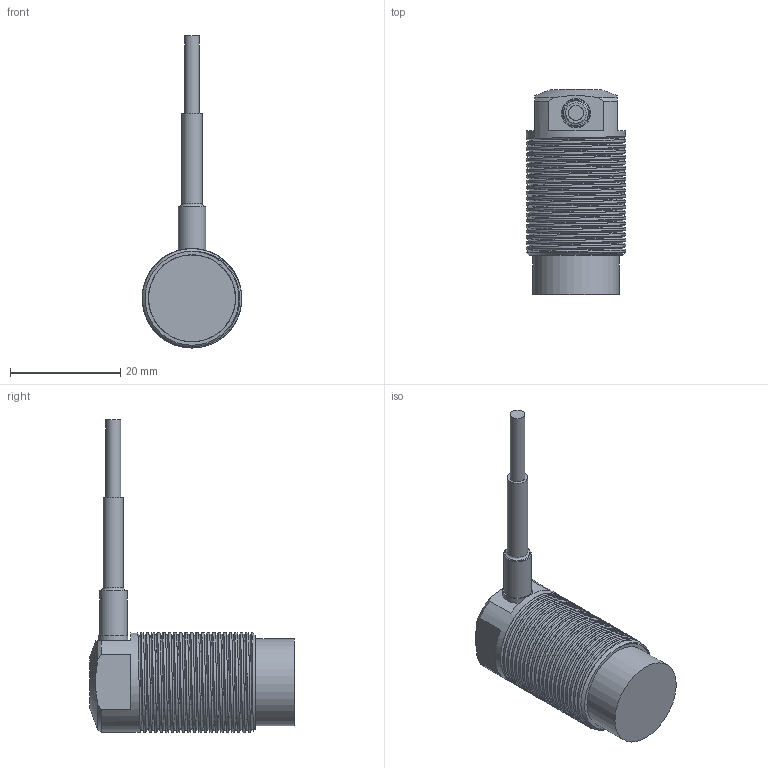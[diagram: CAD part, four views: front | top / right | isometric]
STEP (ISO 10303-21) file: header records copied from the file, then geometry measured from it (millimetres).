
FILE_DESCRIPTION( ( 'STEP AP214' ), '1' );
FILE_NAME( 'N:/Engineering/CAD_Solid/Wirbelstrom/Wirbelstromsensoren/T5/T5-G-KR-VL10.stp', '2013-05-02T13:56:20', ( ' ' ), ( ' ' ), 'XStep 1.0', ' ', ' ' );
FILE_SCHEMA( ( 'CONFIG_CONTROL_DESIGN) ( )' ) );
Length unit declared in the file: metre
Products named in the file (5): 1; 2; 3; 4; 5
Bounding box: 18 x 37.1 x 56.5 mm (x, y, z)
Surface area: 3911.1 mm2 (no closed solid volume)
Topology: 0 solids, 30 shells, 51 faces, 176 edges, 145 vertices
Faces by surface type: cylinder 27, plane 15, cone 5, bspline 2, torus 2
Full cylindrical faces by diameter (mm): 2.7 x1, 3.7 x1, 5 x1, 5.3 x1, 15.7 x1, 18 x21
Entity records: 4772 total; most frequent: CARTESIAN_POINT 3621, DIRECTION 190, ORIENTED_EDGE 102, EDGE_CURVE 102, VERTEX_POINT 102, AXIS2_PLACEMENT_3D 83, CIRCLE 50, FACE_BOUND 45
